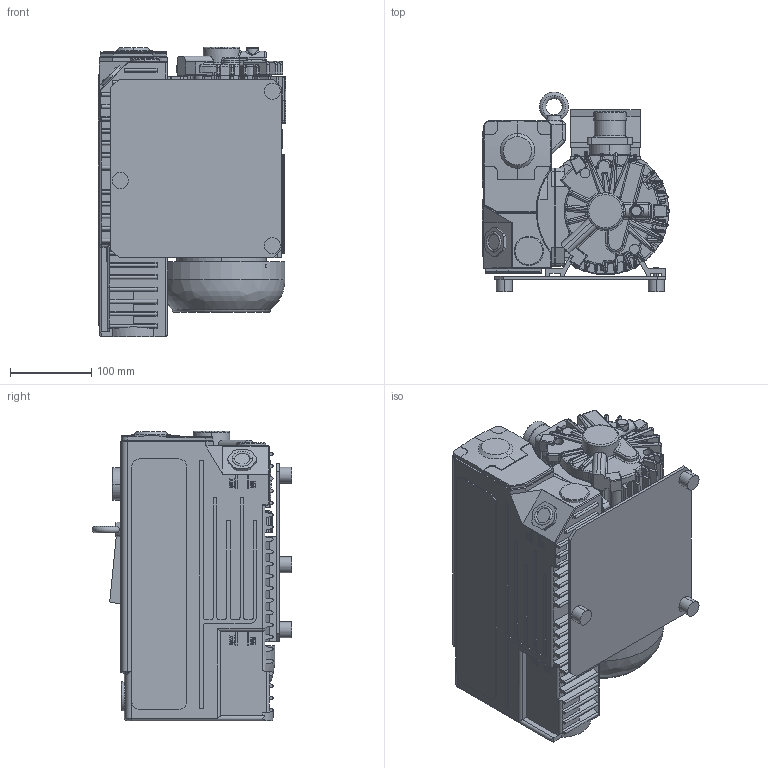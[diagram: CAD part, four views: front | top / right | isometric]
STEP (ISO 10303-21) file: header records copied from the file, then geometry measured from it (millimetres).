
FILE_DESCRIPTION((''),'2;1');
FILE_NAME('PRT0002','2012-08-08T',('LVVCSAVA'),('Copyright by Leybold GmbH'),'PRO/ENGINEER BY PARAMETRIC TECHNOLOGY CORPORATION, 2010430','PRO/ENGINEER BY PARAMETRIC TECHNOLOGY CORPORATION, 2010430','');
FILE_SCHEMA(('AUTOMOTIVE_DESIGN { 1 0 10303 214 1 1 1 1 }'));
Products named in the file (1): PRT0002
Bounding box: 231.1 x 245.5 x 356 mm (x, y, z)
Surface area: 841763 mm2 (no closed solid volume)
Topology: 0 solids, 75 shells, 1741 faces, 4695 edges, 2983 vertices
Faces by surface type: plane 775, cylinder 612, bspline 163, torus 147, cone 28, sphere 16
Entity records: 62201 total; most frequent: CARTESIAN_POINT 19080, DIRECTION 8903, ORIENTED_EDGE 8805, EDGE_CURVE 4695, AXIS2_PLACEMENT_3D 3203, VERTEX_POINT 2983, VECTOR 2497, LINE 2497
